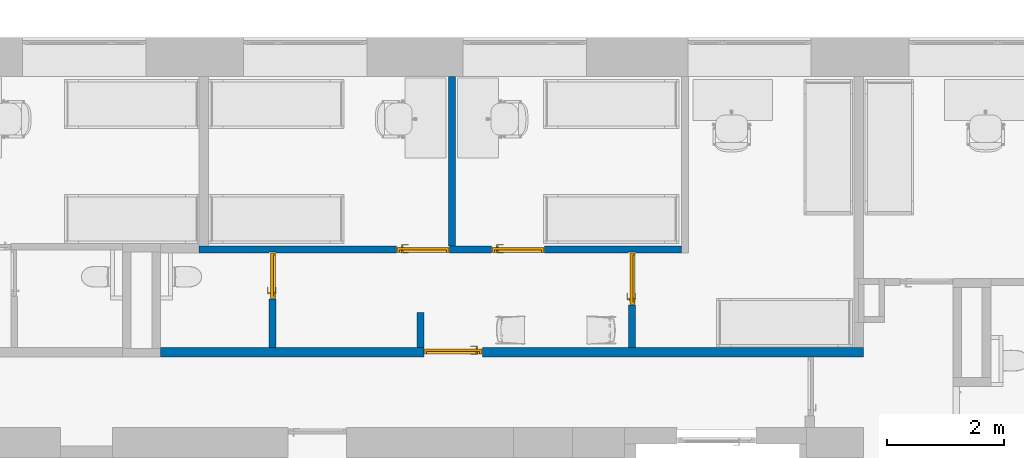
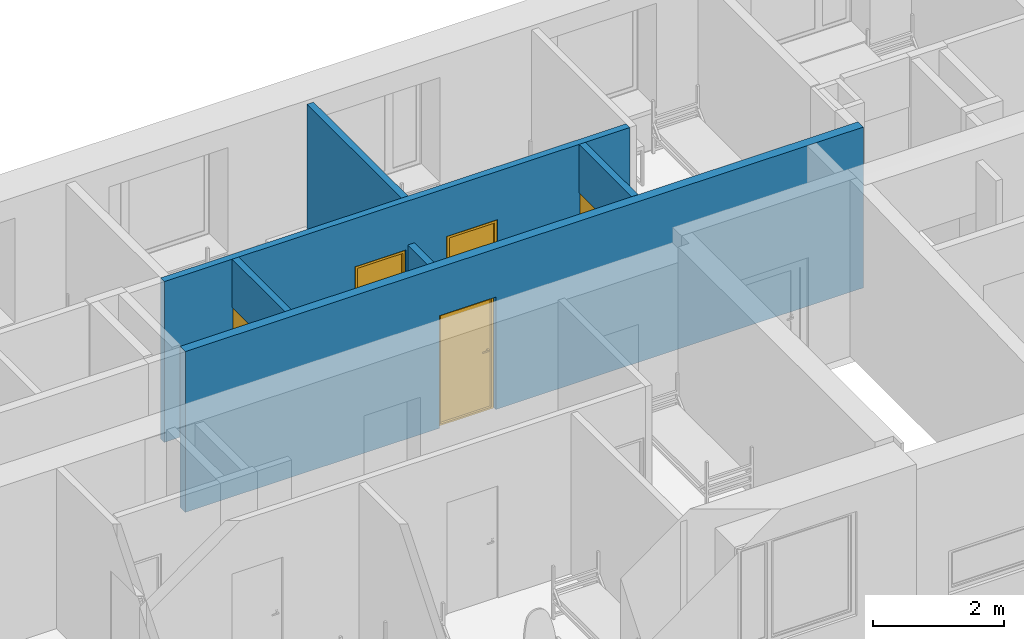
# One storey, part 10 of 46: 6 walls, 5 doors, 8 openings.
"""IFC2X3 building model written with IfcOpenShell, lengths in millimetres."""

import ifcopenshell
import ifcopenshell.guid

model = None  # the IFC model being written
_history = None  # IfcOwnerHistory: only IFC2X3 demands one
_inside = {}  # id of a spatial element -> (the spatial element, [elements in it])
_under = {}  # id of a project, library or spatial element -> (it, [spatial elements below it])
_declared = {}  # id of a project -> (the project, [libraries it declares])
_typed = {}  # id of a type object -> (the type object, [elements of that type])
_made_of = {}  # id of a material, layer set ... -> (it, [elements and type objects made of it])


def new_model(schema):
    """Start an empty IFC model of exactly this schema.

    Asked for "IFC4X3", IfcOpenShell would pick the latest addendum, in which some entities
    have other attributes; the version numbers below select the first issue.
    IFC2X3 requires an IfcOwnerHistory on every rooted entity: one is made here for all.
    """
    global model, _history
    if schema == "IFC4X3":
        model = ifcopenshell.file(schema_version=(4, 3, 0, 0))
    else:
        model = ifcopenshell.file(schema=schema)
    _inside.clear()
    _under.clear()
    _declared.clear()
    _typed.clear()
    _made_of.clear()
    _history = None
    if model.schema == "IFC2X3":
        org = make("IfcOrganization", Name="unknown")
        user = make(
            "IfcPersonAndOrganization",
            ThePerson=make("IfcPerson", FamilyName="unknown"),
            TheOrganization=org,
        )
        app = make(
            "IfcApplication",
            ApplicationDeveloper=org,
            Version="unknown",
            ApplicationFullName="unknown",
            ApplicationIdentifier="unknown",
        )
        _history = make(
            "IfcOwnerHistory",
            OwningUser=user,
            OwningApplication=app,
            ChangeAction="ADDED",
            CreationDate=0,
        )
    return model


def make(cls, **values):
    """One entity of the class cls with the attributes given. An attribute that is None is left unset."""
    return model.create_entity(
        cls, **{name: value for name, value in values.items() if value is not None}
    )


def entity(cls, *values):
    """Any entity or typed value of the class cls, its attributes in the order of the schema. None: left unset."""
    e = model.create_entity(cls)
    for i, value in enumerate(values):
        if value is not None:
            e[i] = value
    return e


def rooted(cls, **values):
    """An entity with a GlobalId (a new one), such as an element, a storey or a relation."""
    return make(cls, GlobalId=ifcopenshell.guid.new(), OwnerHistory=_history, **values)


def si_unit(unit_type, name, prefix=None):
    """IfcSIUnit, for example si_unit("LENGTHUNIT", "METRE", prefix="MILLI")."""
    return make("IfcSIUnit", UnitType=unit_type, Prefix=prefix, Name=name)


def converted_unit(unit_type, name, factor, base, dimensions=None, offset=None):
    """IfcConversionBasedUnit, such as the inch: factor (a typed value) times the base unit."""
    return make(
        "IfcConversionBasedUnit"
        if offset is None
        else "IfcConversionBasedUnitWithOffset",
        ConversionOffset=offset,
        Dimensions=None
        if dimensions is None
        else entity("IfcDimensionalExponents", *dimensions),
        UnitType=unit_type,
        Name=name,
        ConversionFactor=make(
            "IfcMeasureWithUnit", ValueComponent=factor, UnitComponent=base
        ),
    )


def derived_unit(unit_type, elements):
    """IfcDerivedUnit: a product of units, each with its exponent."""
    return make(
        "IfcDerivedUnit",
        Elements=[
            make("IfcDerivedUnitElement", Unit=unit, Exponent=power)
            for unit, power in elements
        ],
        UnitType=unit_type,
    )


def assignment(units):
    """IfcUnitAssignment: the units of a project."""
    return None if units is None else make("IfcUnitAssignment", Units=units)


def point(xyz):
    """IfcCartesianPoint."""
    return None if xyz is None else make("IfcCartesianPoint", Coordinates=xyz)


def direction(xyz):
    """IfcDirection."""
    return None if xyz is None else make("IfcDirection", DirectionRatios=xyz)


def frame(location, z_axis=None, x_axis=None):
    """IfcAxis2Placement3D, a coordinate frame: its origin and axes. An axis left out is left unset."""
    return make(
        "IfcAxis2Placement3D",
        Location=point(location),
        Axis=direction(z_axis),
        RefDirection=direction(x_axis),
    )


def frame_2d(location, x_axis=None):
    """IfcAxis2Placement2D, a coordinate frame in the plane: its origin and x axis."""
    return make(
        "IfcAxis2Placement2D", Location=point(location), RefDirection=direction(x_axis)
    )


def origin():
    """The frame at (0, 0, 0) with its axes left unset."""
    return frame((0.0, 0.0, 0.0))


def place(relative_to, where):
    """IfcLocalPlacement: puts the frame where relative to a parent placement (None: the world)."""
    return make(
        "IfcLocalPlacement", PlacementRelTo=relative_to, RelativePlacement=where
    )


def context(
    kind, dimensions, precision=None, world=None, true_north=None, identifier=None
):
    """IfcGeometricRepresentationContext, for example the 3D "Model" context."""
    return make(
        "IfcGeometricRepresentationContext",
        ContextIdentifier=identifier,
        ContextType=kind,
        CoordinateSpaceDimension=dimensions,
        Precision=precision,
        WorldCoordinateSystem=world,
        TrueNorth=true_north,
    )


def subcontext(parent, identifier, kind, view, scale=None):
    """IfcGeometricRepresentationSubContext, for example "Body" below "Model"."""
    return make(
        "IfcGeometricRepresentationSubContext",
        ContextIdentifier=identifier,
        ContextType=kind,
        ParentContext=parent,
        TargetScale=scale,
        TargetView=view,
    )


def project(units=None, contexts=None):
    """IfcProject with its units and contexts."""
    return rooted(
        "IfcProject",
        Name="project",
        RepresentationContexts=contexts,
        UnitsInContext=assignment(units),
    )


def spatial(cls, under=None, at=None, **own):
    """A site, building, storey or space (cls), placed at a placement, below another one or the project."""
    s = rooted(cls, ObjectPlacement=at, **own)
    if under is not None:
        _under.setdefault(under.id(), (under, []))[1].append(s)
    return s


def polyline(points):
    """IfcPolyline through the points."""
    return make("IfcPolyline", Points=[point(p) for p in points])


def profile(cls, at=None, kind="AREA", **sizes):
    """A parametric profile (cls). Its sizes go by their IFC names, for example OverallWidth=200.0."""
    return make(cls, ProfileType=kind, Position=at, **sizes)


def rectangle(**sizes):
    """IfcRectangleProfileDef."""
    return profile("IfcRectangleProfileDef", **sizes)


def extrude(swept, where, along, depth):
    """IfcExtrudedAreaSolid: the profile swept, set in the frame where, extruded along a direction by depth."""
    return make(
        "IfcExtrudedAreaSolid",
        SweptArea=swept,
        Position=where,
        ExtrudedDirection=direction(along),
        Depth=depth,
    )


def clip(a, b, op="DIFFERENCE"):
    """IfcBooleanClippingResult: the solid a cut by the half space b."""
    return make(
        "IfcBooleanClippingResult", Operator=op, FirstOperand=a, SecondOperand=b
    )


def bounded_halfspace(plane, agree, where, boundary):
    """IfcPolygonalBoundedHalfSpace: a half space limited to a polygon's prism."""
    return make(
        "IfcPolygonalBoundedHalfSpace",
        BaseSurface=make("IfcPlane", Position=plane),
        AgreementFlag=agree,
        Position=where,
        PolygonalBoundary=boundary,
    )


def faces_of(points, faces, orient=None, outer=None):
    """IfcFace entities. A face is a list of loops; a loop is a list of indices into points, from 0.

    orient and outer hold one flag for each loop. By default every Orientation is true, the
    first loop of a face is its IfcFaceOuterBound and the others are IfcFaceBound.
    """
    made = []
    for i, loops in enumerate(faces):
        bounds = []
        for j, loop in enumerate(loops):
            is_outer = j == 0 if outer is None else outer[i][j]
            bounds.append(
                make(
                    "IfcFaceOuterBound" if is_outer else "IfcFaceBound",
                    Bound=make("IfcPolyLoop", Polygon=[points[k] for k in loop]),
                    Orientation=True if orient is None else orient[i][j],
                )
            )
        made.append(make("IfcFace", Bounds=bounds))
    return made


def faceted_brep(points, faces, orient=None, outer=None, voids=None):
    """IfcFacetedBrep: a solid bounded by flat faces; with voids (closed shells), ...WithVoids."""
    shared = [point(p) for p in points]
    hull = make("IfcClosedShell", CfsFaces=faces_of(shared, faces, orient, outer))
    if voids is None:
        return make("IfcFacetedBrep", Outer=hull)
    return make(
        "IfcFacetedBrepWithVoids",
        Outer=hull,
        Voids=[
            make(cls, CfsFaces=faces_of(shared, fs, o, b)) for cls, fs, o, b in voids
        ],
    )


def shape(context_of_items, identifier, shape_type, items):
    """IfcShapeRepresentation: the items that make up one representation, for example the "Body"."""
    return make(
        "IfcShapeRepresentation",
        ContextOfItems=context_of_items,
        RepresentationIdentifier=identifier,
        RepresentationType=shape_type,
        Items=items,
    )


def source(mapping_origin, context_of_items, identifier, shape_type, items):
    """IfcRepresentationMap: a shape defined once, which mapped items show again and again."""
    return make(
        "IfcRepresentationMap",
        MappingOrigin=mapping_origin,
        MappedRepresentation=shape(context_of_items, identifier, shape_type, items),
    )


def transform(
    local_origin,
    x_axis=None,
    y_axis=None,
    z_axis=None,
    scale=None,
    scale2=None,
    scale3=None,
    uniform=True,
):
    """IfcCartesianTransformationOperator3D, or its non-uniform kind. x_axis, y_axis, z_axis: its Axis1, 2, 3."""
    if uniform:
        return make(
            "IfcCartesianTransformationOperator3D",
            Axis1=direction(x_axis),
            Axis2=direction(y_axis),
            LocalOrigin=point(local_origin),
            Scale=scale,
            Axis3=direction(z_axis),
        )
    return make(
        "IfcCartesianTransformationOperator3DnonUniform",
        Axis1=direction(x_axis),
        Axis2=direction(y_axis),
        LocalOrigin=point(local_origin),
        Scale=scale,
        Axis3=direction(z_axis),
        Scale2=scale2,
        Scale3=scale3,
    )


def mapped(mapping_source, mapping_target):
    """IfcMappedItem: shows the shape of a source again, moved by a transform."""
    return make(
        "IfcMappedItem", MappingSource=mapping_source, MappingTarget=mapping_target
    )


def material(Name=None, Category=None):
    """IfcMaterial."""
    return make("IfcMaterial", Name=Name, Category=Category)


def material_list(materials):
    """IfcMaterialList."""
    return make("IfcMaterialList", Materials=materials)


def layer(
    of_material, thickness, ventilated=None, Name=None, Category=None, Priority=None
):
    """IfcMaterialLayer: one layer of a wall or slab, of a material (None: an air gap)."""
    return make(
        "IfcMaterialLayer",
        Material=of_material,
        LayerThickness=thickness,
        IsVentilated=ventilated,
        Name=Name,
        Category=Category,
        Priority=Priority,
    )


def layer_set(layers, Name=None):
    """IfcMaterialLayerSet."""
    return make("IfcMaterialLayerSet", MaterialLayers=layers, LayerSetName=Name)


def layer_usage(for_layer_set, set_direction, sense, offset, extent=None):
    """IfcMaterialLayerSetUsage: how a layer set lies in its element."""
    return make(
        "IfcMaterialLayerSetUsage",
        ForLayerSet=for_layer_set,
        LayerSetDirection=set_direction,
        DirectionSense=sense,
        OffsetFromReferenceLine=offset,
        ReferenceExtent=extent,
    )


def made_of(thing, what):
    """Note that an element or type object is made of a material, layer set ...; save() writes the relation."""
    if what is not None:
        _made_of.setdefault(what.id(), (what, []))[1].append(thing)
    return thing


def type_object(cls, material=None, **own):
    """A type object (cls), such as IfcWallType, which elements share."""
    return made_of(rooted(cls, **own), material)


def type_shapes(of_type, sources):
    """Give a type object the sources (RepresentationMaps) that its elements show as mapped items."""
    of_type.RepresentationMaps = sources


def element(
    cls,
    number,
    at=None,
    inside=None,
    cuts=None,
    type_object=None,
    material=None,
    context=None,
    identifier="Body",
    shape_type=None,
    held_by="IfcProductDefinitionShape",
    body=None,
    shapes=None,
    **own,
):
    """One element of the class cls, such as IfcWall. Its Tag is "e" and its number.

    at: its placement. inside: the storey or other place that contains it. cuts: it is an
    opening in that element (IfcRelVoidsElement). A single representation is given by context,
    identifier, shape_type and body (its items); several are given by shapes. held_by: the class
    of the entity that holds the representations. save() writes the other relations.
    """
    e = rooted(cls, Tag="e%d" % number, ObjectPlacement=at, **own)
    if body is not None:
        shapes = [shape(context, identifier, shape_type, body)]
    if shapes is not None:
        e.Representation = make(held_by, Representations=shapes)
    if inside is not None:
        _inside.setdefault(inside.id(), (inside, []))[1].append(e)
    if cuts is not None:
        rooted(
            "IfcRelVoidsElement", RelatingBuildingElement=cuts, RelatedOpeningElement=e
        )
    if type_object is not None:
        _typed.setdefault(type_object.id(), (type_object, []))[1].append(e)
    return made_of(e, material)


def fill(opening, filler):
    """IfcRelFillsElement: the door or window that sits in an opening."""
    return rooted(
        "IfcRelFillsElement",
        RelatingOpeningElement=opening,
        RelatedBuildingElement=filler,
    )


def aggregate(whole, parts):
    """IfcRelAggregates: a whole, such as a stair, and the parts it consists of."""
    return rooted("IfcRelAggregates", RelatingObject=whole, RelatedObjects=parts)


def save(model, path):
    """Write the relations noted so far, then the file.

    IfcRelAggregates (storeys below a building ...), IfcRelContainedInSpatialStructure (elements
    in a storey), IfcRelDefinesByType, IfcRelAssociatesMaterial and IfcRelDeclares: one each for
    every whole, place, type object, material and project.
    """
    for whole, parts in _under.values():
        aggregate(whole, parts)
    for where, things in _inside.values():
        rooted(
            "IfcRelContainedInSpatialStructure",
            RelatedElements=things,
            RelatingStructure=where,
        )
    for kind, things in _typed.values():
        rooted("IfcRelDefinesByType", RelatedObjects=things, RelatingType=kind)
    for what, things in _made_of.values():
        rooted("IfcRelAssociatesMaterial", RelatedObjects=things, RelatingMaterial=what)
    for by, libraries in _declared.values():
        rooted("IfcRelDeclares", RelatingContext=by, RelatedDefinitions=libraries)
    model.write(path)


model = new_model("IFC2X3")

# Units and contexts
model_context = context("Model", 3, precision=0.01, world=origin(), true_north=direction((6.12303176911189e-17, 1.0)))
body_context = subcontext(model_context, "Body", "Model", "MODEL_VIEW")
ifc_project = project(units=[si_unit("LENGTHUNIT", "METRE", prefix="MILLI"), si_unit("AREAUNIT", "SQUARE_METRE"), si_unit("VOLUMEUNIT", "CUBIC_METRE"), converted_unit("PLANEANGLEUNIT", "DEGREE", entity("IfcRatioMeasure", 0.0174532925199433), si_unit("PLANEANGLEUNIT", "RADIAN"), dimensions=[0, 0, 0, 0, 0, 0, 0]), si_unit("MASSUNIT", "GRAM", prefix="KILO"), derived_unit("MASSDENSITYUNIT", [(si_unit("MASSUNIT", "GRAM", prefix="KILO"), 1), (si_unit("LENGTHUNIT", "METRE"), -3)]), si_unit("TIMEUNIT", "SECOND"), si_unit("FREQUENCYUNIT", "HERTZ"), si_unit("THERMODYNAMICTEMPERATUREUNIT", "DEGREE_CELSIUS"), derived_unit("THERMALTRANSMITTANCEUNIT", [(si_unit("MASSUNIT", "GRAM", prefix="KILO"), 1), (si_unit("THERMODYNAMICTEMPERATUREUNIT", "KELVIN"), -1), (si_unit("TIMEUNIT", "SECOND"), -3)]), derived_unit("VOLUMETRICFLOWRATEUNIT", [(si_unit("LENGTHUNIT", "METRE"), 3), (si_unit("TIMEUNIT", "SECOND"), -1)]), si_unit("ELECTRICCURRENTUNIT", "AMPERE"), si_unit("ELECTRICVOLTAGEUNIT", "VOLT"), si_unit("POWERUNIT", "WATT"), si_unit("FORCEUNIT", "NEWTON", prefix="KILO"), si_unit("ILLUMINANCEUNIT", "LUX"), si_unit("LUMINOUSFLUXUNIT", "LUMEN"), si_unit("LUMINOUSINTENSITYUNIT", "CANDELA"), derived_unit("USERDEFINED", [(si_unit("MASSUNIT", "GRAM", prefix="KILO"), -1), (si_unit("LENGTHUNIT", "METRE"), -2), (si_unit("TIMEUNIT", "SECOND"), 3), (si_unit("LUMINOUSFLUXUNIT", "LUMEN"), 1)]), derived_unit("LINEARVELOCITYUNIT", [(si_unit("LENGTHUNIT", "METRE"), 1), (si_unit("TIMEUNIT", "SECOND"), -1)]), si_unit("PRESSUREUNIT", "PASCAL"), derived_unit("USERDEFINED", [(si_unit("LENGTHUNIT", "METRE"), -2), (si_unit("MASSUNIT", "GRAM", prefix="KILO"), 1), (si_unit("TIMEUNIT", "SECOND"), -2)]), derived_unit("LINEARFORCEUNIT", [(si_unit("MASSUNIT", "GRAM", prefix="KILO"), 1), (si_unit("LENGTHUNIT", "METRE"), 1), (si_unit("TIMEUNIT", "SECOND"), -2), (si_unit("LENGTHUNIT", "METRE"), -1)]), derived_unit("PLANARFORCEUNIT", [(si_unit("MASSUNIT", "GRAM", prefix="KILO"), 1), (si_unit("LENGTHUNIT", "METRE"), 1), (si_unit("TIMEUNIT", "SECOND"), -2), (si_unit("LENGTHUNIT", "METRE"), -2)])], contexts=[model_context])

# Site, building, storey
site_placement = place(None, origin())
site = spatial("IfcSite", under=ifc_project, at=site_placement, Name="Default", CompositionType="ELEMENT")
building_placement = place(site_placement, origin())
building = spatial("IfcBuilding", under=site, at=building_placement, Name="SMA ARH", CompositionType="ELEMENT")
storey_placement = place(building_placement, frame((0.0, 0.0, 9910.0)))
storey = spatial("IfcBuildingStorey", under=building, at=storey_placement, Name="4 Korrus", CompositionType="ELEMENT", Elevation=9909.9999999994)

# Wall, openings, door
ifc_material_1 = material(Name="EST. Ehitusplaat. Kipsplaat")
ifc_layer_1 = layer(ifc_material_1, 12.5)
ifc_layer_2 = layer(ifc_material_1, 12.5)
ifc_material_2 = material(Name="EST. Soojustus. Mineraalvill. Default")
ifc_layer_3 = layer(ifc_material_2, 50.0)
ifc_layer_4 = layer(ifc_material_1, 12.5)
ifc_layer_5 = layer(ifc_material_2, 50.0)
ifc_layer_6 = layer(ifc_material_1, 12.5)
ifc_layer_7 = layer(ifc_material_1, 12.5)
ifc_layer_set_1 = layer_set([ifc_layer_1, ifc_layer_2, ifc_layer_3, ifc_layer_4, ifc_layer_5, ifc_layer_6, ifc_layer_7], Name="Basic Wall:SS-04_Kips, 50+50 mm metallkarkass 2")
ifc_layer_usage_1 = layer_usage(ifc_layer_set_1, "AXIS2", "NEGATIVE", 81.25)
wall_type_1 = type_object("IfcWallType", Name="Basic Wall:SS-04_Kips, 50+50 mm metallkarkass 2", PredefinedType="STANDARD", material=ifc_layer_set_1)
wall_1_placement = place(storey_placement, frame((22737.2884818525, 7801.25000000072, 0.0)))
wall_1 = element("IfcWallStandardCase", 1, at=wall_1_placement, inside=storey, type_object=wall_type_1, material=ifc_layer_usage_1, Name="Basic Wall:SS-04_Kips, 50+50 mm metallkarkass 2", ObjectType="Basic Wall:SS-04_Kips, 50+50 mm metallkarkass 2", context=body_context, shape_type="Clipping", body=[
    clip(extrude(rectangle(XDim=11969.4615181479, YDim=162.5, at=frame_2d((5984.73075907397, 1.4210854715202e-14), x_axis=(-1.0, 0.0))), origin(), (0.0, 0.0, 1.0), 3001.0500000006), bounded_halfspace(frame((0.0, -81.2499999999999, 3001.0500000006), z_axis=(0.0, 0.0, -1.0), x_axis=(0.0, 1.0, 0.0)), True, frame((0.0, -81.2499999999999, 3001.0500000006)), polyline([(0.0, 0.0), (10973.9615181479, 0.0), (11136.4615181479, 0.0), (11969.4615181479, 0.0), (11969.4615181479, 162.5), (11806.9615181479, 162.5), (8087.29506046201, 162.5), (7971.29506046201, 162.499999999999), (4482.0, 162.5), (4366.0, 162.499999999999), (1966.0, 162.5), (1850.0, 162.5), (0.0, 162.5), (0.0, 150.000009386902), (0.0, 0.0)]))),
])
opening_1_placement = place(wall_1_placement, origin())
element("IfcOpeningElement", 2, at=opening_1_placement, cuts=wall_1, Name="Basic Wall:SS-04_Kips, 50+50 mm metallkarkass 2", ObjectType="Opening", context=body_context, shape_type="SweptSolid", body=[
    extrude(rectangle(XDim=2099.99999999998, YDim=162.500000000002, at=frame_2d((-2.16715534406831e-12, -1.02318153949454e-12), x_axis=(0.0, 1.0))), frame((11055.2115181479, -1081.25, 1050.0), z_axis=(0.0, 1.0, 0.0), x_axis=(-1.0, 0.0, 0.0)), (0.0, 0.0, 1.0), 999.999999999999),
])
opening_2_placement = place(wall_1_placement, frame((4482.0, -81.2500000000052, 0.0)))
opening_2 = element("IfcOpeningElement", 3, at=opening_2_placement, cuts=wall_1, Name="SMA_D01, 1-poolne:SU-P-04 - 1000x2100 EI-30:1", ObjectType="Opening", context=body_context, shape_type="SweptSolid", body=[
    extrude(rectangle(XDim=2099.99999999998, YDim=1000.0, at=frame_2d((1049.99999999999, 500.0), x_axis=(1.0, 0.0))), frame((0.0, 0.0, 0.0), z_axis=(0.0, 1.0, 0.0), x_axis=(0.0, 0.0, 1.0)), (0.0, 0.0, 1.0), 162.5),
])
ifc_material_3 = material(Name="EST. Metall. Alumiinium. Värvitud. RAL7023 (Concrete grey)")
ifc_material_4 = material(Name="<Unnamed>")
ifc_material_5 = material(Name="EST. Klaas. 3x. Default")
ifc_material_list_1 = material_list([ifc_material_3, ifc_material_3, ifc_material_3, ifc_material_4, ifc_material_5, ifc_material_4, ifc_material_4])
door_style_1 = type_object("IfcDoorStyle", Name="SMA_D01, 1-poolne:SU-P-04 - 1000x2100 EI-30", ConstructionType="NOTDEFINED", OperationType="SINGLE_SWING_LEFT", ParameterTakesPrecedence=False, Sizeable=False, material=ifc_material_list_1)
shared_shape_1 = source(origin(), body_context, "Body", "Brep", [
    faceted_brep([(890.0, 52.5000000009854, 1112.5), (795.0, 52.5000000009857, 1112.5), (795.0, 47.5000000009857, 1112.5), (915.0, 47.5000000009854, 1112.5), (915.0, 90.5000000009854, 1112.5), (890.0, 90.5000000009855, 1112.5), (890.0, 52.5000000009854, 1087.5), (890.0, 90.5000000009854, 1087.5), (915.0, 90.5000000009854, 1087.5), (915.0, 47.5000000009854, 1087.5), (795.0, 47.5000000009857, 1087.5), (795.0, 52.5000000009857, 1087.5)], [[[0, 1, 2, 3, 4, 5]], [[6, 7, 8, 9, 10, 11]], [[5, 7, 6, 0]], [[4, 8, 7, 5]], [[3, 9, 8, 4]], [[2, 10, 9, 3]], [[1, 11, 10, 2]], [[0, 6, 11, 1]]]),
    faceted_brep([(877.500000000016, 90.5000000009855, 1137.5), (927.500000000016, 90.5000000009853, 1137.5), (927.500000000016, 92.5000000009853, 1137.5), (877.500000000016, 92.5000000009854, 1137.5), (877.500000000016, 90.5000000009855, 1017.5), (877.500000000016, 92.5000000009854, 1017.5), (927.500000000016, 92.5000000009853, 1017.5), (927.500000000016, 90.5000000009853, 1017.5)], [[[0, 1, 2, 3]], [[4, 5, 6, 7]], [[3, 5, 4, 0]], [[2, 6, 5, 3]], [[1, 7, 6, 2]], [[0, 4, 7, 1]]]),
    faceted_brep([(890.0, 182.500000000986, 1112.5), (890.0, 144.500000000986, 1112.5), (915.0, 144.500000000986, 1112.5), (915.0, 187.500000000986, 1112.5), (795.0, 187.500000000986, 1112.5), (795.0, 182.500000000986, 1112.5), (890.0, 182.500000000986, 1087.5), (795.0, 182.500000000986, 1087.5), (795.0, 187.500000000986, 1087.5), (915.0, 187.500000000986, 1087.5), (915.0, 144.500000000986, 1087.5), (890.0, 144.500000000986, 1087.5)], [[[0, 1, 2, 3, 4, 5]], [[6, 7, 8, 9, 10, 11]], [[1, 0, 6, 11]], [[2, 1, 11, 10]], [[3, 2, 10, 9]], [[4, 3, 9, 8]], [[5, 4, 8, 7]], [[0, 5, 7, 6]]]),
    faceted_brep([(877.500000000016, 144.500000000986, 1137.5), (877.500000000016, 142.500000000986, 1137.5), (927.500000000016, 142.500000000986, 1137.5), (927.500000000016, 144.500000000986, 1137.5), (877.500000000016, 144.500000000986, 1017.5), (927.500000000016, 144.500000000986, 1017.5), (927.500000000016, 142.500000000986, 1017.5), (877.500000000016, 142.500000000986, 1017.5)], [[[0, 1, 2, 3]], [[4, 5, 6, 7]], [[1, 0, 4, 7]], [[2, 1, 7, 6]], [[3, 2, 6, 5]], [[0, 3, 5, 4]]]),
    faceted_brep([(50.0, 52.5000000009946, 30.0), (50.0, 92.5000000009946, 30.0), (50.0, 92.5000000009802, 20.0), (50.0, 92.5000000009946, 0.0), (50.0, 52.5000000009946, 0.0), (950.0, 52.5000000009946, 30.0), (950.0, 52.5000000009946, 0.0), (950.0, 92.5000000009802, 0.0), (950.0, 92.5000000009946, 20.0), (950.0, 92.5000000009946, 30.0), (35.0, 92.5000000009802, 0.0), (35.0, 142.500000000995, 0.0), (965.0, 142.500000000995, 0.0), (965.0, 92.5000000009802, 0.0), (35.0, 142.500000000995, 20.0), (35.0, 92.5000000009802, 20.0), (965.0, 142.500000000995, 20.0), (965.0, 92.5000000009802, 20.0)], [[[0, 1, 2, 3, 4]], [[5, 6, 7, 8, 9]], [[4, 6, 5, 0]], [[3, 10, 11, 12, 13, 7, 6, 4]], [[9, 8, 2, 1]], [[0, 5, 9, 1]], [[14, 11, 10, 15]], [[16, 17, 13, 12]], [[15, 2, 8, 17, 16, 14]], [[10, 3, 2, 15]], [[14, 16, 12, 11]], [[17, 8, 7, 13]]]),
    faceted_brep([(10.0, 52.5000000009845, 0.0), (10.0, 142.500000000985, 0.0), (35.0, 142.500000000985, 0.0), (35.0, 92.5000000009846, 0.0), (50.0, 92.5000000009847, 0.0), (50.0, 52.5000000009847, 0.0), (50.0, 52.5000000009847, 2050.0), (950.0, 52.5000000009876, 2050.0), (950.0, 52.5000000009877, 0.0), (990.0, 52.5000000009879, 0.0), (990.0, 52.5000000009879, 2090.0), (10.0, 52.5000000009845, 2090.0), (50.0, 92.5000000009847, 2050.0), (35.0, 92.5000000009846, 2065.0), (965.0, 92.5000000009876, 2065.0), (965.0, 92.5000000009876, 0.0), (950.0, 92.5000000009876, 0.0), (950.0, 92.5000000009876, 2050.0), (35.0, 142.500000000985, 2065.0), (10.0, 142.500000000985, 2090.0), (990.0, 142.500000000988, 2090.0), (990.0, 142.500000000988, 0.0), (965.0, 142.500000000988, 0.0), (965.0, 142.500000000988, 2065.0)], [[[0, 1, 2, 3, 4, 5]], [[5, 6, 7, 8, 9, 10, 11, 0]], [[4, 12, 6, 5]], [[3, 13, 14, 15, 16, 17, 12, 4]], [[2, 18, 13, 3]], [[1, 19, 20, 21, 22, 23, 18, 2]], [[0, 11, 19, 1]], [[9, 21, 20, 10]], [[8, 16, 15, 22, 21, 9]], [[7, 17, 16, 8]], [[14, 23, 22, 15]], [[6, 12, 17, 7]], [[13, 18, 23, 14]], [[10, 20, 19, 11]]]),
    faceted_brep([(965.0, 92.5000000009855, 2065.0), (35.0, 92.5000000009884, 2065.0), (35.0, 92.5000000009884, 20.0), (965.0, 92.5000000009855, 20.0), (965.0, 142.500000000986, 2065.0), (965.0, 142.500000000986, 20.0), (35.0, 142.500000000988, 20.0), (35.0, 142.500000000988, 2065.0)], [[[0, 1, 2, 3]], [[4, 5, 6, 7]], [[3, 5, 4, 0]], [[2, 6, 5, 3]], [[1, 7, 6, 2]], [[0, 4, 7, 1]]]),
])
type_shapes(door_style_1, [shared_shape_1])
door_1_placement = place(opening_2_placement, origin())
door_1 = element("IfcDoor", 4, at=door_1_placement, inside=storey, type_object=door_style_1, material=ifc_material_3, Name="SMA_D01, 1-poolne:SU-P-04 - 1000x2100 EI-30", ObjectType="SMA_D01, 1-poolne:SU-P-04 - 1000x2100 EI-30", OverallHeight=2099.99999999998, OverallWidth=999.999999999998, context=body_context, shape_type="MappedRepresentation", body=[
    mapped(shared_shape_1, transform((0.0, 0.0, 0.0), scale=1.0)),
])
fill(opening_2, door_1)

# Wall
ifc_layer_8 = layer(ifc_material_1, 12.5)
ifc_layer_9 = layer(ifc_material_1, 12.5)
ifc_layer_10 = layer(ifc_material_2, 66.0)
ifc_layer_11 = layer(ifc_material_1, 12.5)
ifc_layer_12 = layer(ifc_material_1, 12.5)
ifc_layer_set_2 = layer_set([ifc_layer_8, ifc_layer_9, ifc_layer_10, ifc_layer_11, ifc_layer_12], Name="Basic Wall:SS-05_Kips, 66mm metallkarkass")
ifc_layer_usage_2 = layer_usage(ifc_layer_set_2, "AXIS2", "NEGATIVE", 58.0)
wall_type_2 = type_object("IfcWallType", Name="Basic Wall:SS-05_Kips, 66mm metallkarkass", PredefinedType="STANDARD", material=ifc_layer_set_2)
wall_2_placement = place(storey_placement, frame((27701.5000000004, 12500.0, 0.0), z_axis=(0.0, 0.0, 1.0), x_axis=(0.0, -1.0, 0.0)))
element("IfcWallStandardCase", 5, at=wall_2_placement, inside=storey, type_object=wall_type_2, material=ifc_layer_usage_2, Name="Basic Wall:SS-05_Kips, 66mm metallkarkass", ObjectType="Basic Wall:SS-05_Kips, 66mm metallkarkass", context=body_context, shape_type="SweptSolid", body=[
    extrude(rectangle(XDim=2889.49999999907, YDim=116.0, at=frame_2d((1444.74999999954, -2.06057393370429e-13), x_axis=(-1.0, 0.0))), origin(), (0.0, 0.0, 1.0), 3001.0500000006),
])

# Wall, openings, doors
ifc_layer_usage_3 = layer_usage(ifc_layer_set_2, "AXIS2", "POSITIVE", -58.0)
wall_3_placement = place(storey_placement, frame((31609.5000000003, 9552.5000000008, 0.0), z_axis=(0.0, 0.0, 1.0), x_axis=(-1.0, 0.0, 0.0)))
wall_3 = element("IfcWallStandardCase", 6, at=wall_3_placement, inside=storey, type_object=wall_type_2, material=ifc_layer_usage_3, Name="Basic Wall:SS-05_Kips, 66mm metallkarkass", ObjectType="Basic Wall:SS-05_Kips, 66mm metallkarkass", context=body_context, shape_type="Clipping", body=[
    clip(extrude(rectangle(XDim=8218.24999999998, YDim=116.0, at=frame_2d((4109.12499999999, -1.4210854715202e-13), x_axis=(-1.0, 0.0))), origin(), (0.0, 0.0, 1.0), 3001.0500000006), bounded_halfspace(frame((0.0, -58.0, 3001.0500000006), z_axis=(0.0, 0.0, -1.0), x_axis=(0.0, -1.0, 0.0)), True, frame((0.0, -58.0, 3001.0500000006)), polyline([(0.0, 0.0), (3850.0, 0.0), (3966.0, 0.0), (8055.74999999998, 0.0), (8218.24999999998, 0.0), (8218.24999999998, 116.0), (7022.21151814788, 116.0), (6906.21151814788, 116.0), (900.916457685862, 116.0), (784.916457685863, 116.0), (0.0, 116.0), (0.0, 0.0)]))),
])
opening_3_placement = place(wall_3_placement, origin())
element("IfcOpeningElement", 7, at=opening_3_placement, cuts=wall_3, Name="Basic Wall:SS-05_Kips, 66mm metallkarkass", ObjectType="Opening", context=body_context, shape_type="SweptSolid", body=[
    extrude(rectangle(XDim=2099.99999999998, YDim=116.0, at=frame_2d((0.0, 1.02318153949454e-12), x_axis=(0.0, 1.0))), frame((6964.21151814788, 45.5000000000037, 1050.0), z_axis=(0.0, 1.0, 0.0), x_axis=(1.0, 0.0, 0.0)), (0.0, 0.0, 1.0), 800.0),
])
opening_4_placement = place(wall_3_placement, origin())
element("IfcOpeningElement", 8, at=opening_4_placement, cuts=wall_3, Name="Basic Wall:SS-05_Kips, 66mm metallkarkass", ObjectType="Opening", context=body_context, shape_type="SweptSolid", body=[
    extrude(rectangle(XDim=2099.99999999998, YDim=116.0, at=frame_2d((-4.33075797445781e-12, 1.02318153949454e-12), x_axis=(0.0, 1.0))), frame((842.916457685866, 45.500000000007, 1050.0), z_axis=(0.0, 1.0, 0.0), x_axis=(1.0, 0.0, 0.0)), (0.0, 0.0, 1.0), 900.0),
])
opening_5_placement = place(wall_3_placement, frame((4853.49999999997, 58.0, 0.0)))
opening_5 = element("IfcOpeningElement", 9, at=opening_5_placement, cuts=wall_3, Name="SMA_D01, 1-poolne:SU-P-05 - 900x2100 TUBA:1", ObjectType="Opening", context=body_context, shape_type="SweptSolid", body=[
    extrude(rectangle(XDim=2099.99999999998, YDim=900.0, at=frame_2d((1049.99999999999, 450.0), x_axis=(1.0, 0.0))), frame((0.0, 0.0, 0.0), z_axis=(0.0, -1.0, 0.0), x_axis=(0.0, 0.0, 1.0)), (0.0, 0.0, 1.0), 116.0),
])
opening_6_placement = place(wall_3_placement, frame((3235.0, 58.0, 0.0)))
opening_6 = element("IfcOpeningElement", 10, at=opening_6_placement, cuts=wall_3, Name="SMA_D01, 1-poolne:SU-P-05 - 900x2100 TUBA:1", ObjectType="Opening", context=body_context, shape_type="SweptSolid", body=[
    extrude(rectangle(XDim=2099.99999999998, YDim=900.0, at=frame_2d((1049.99999999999, 450.0), x_axis=(1.0, 0.0))), frame((0.0, 0.0, 0.0), z_axis=(0.0, -1.0, 0.0), x_axis=(0.0, 0.0, 1.0)), (0.0, 0.0, 1.0), 116.0),
])
ifc_material_list_2 = material_list([ifc_material_4, ifc_material_5, ifc_material_4, ifc_material_3, ifc_material_3, ifc_material_3, ifc_material_4])
door_style_2 = type_object("IfcDoorStyle", Name="SMA_D01, 1-poolne:SU-P-05 - 900x2100 TUBA", ConstructionType="NOTDEFINED", OperationType="SINGLE_SWING_RIGHT", ParameterTakesPrecedence=False, Sizeable=False, material=ifc_material_list_2)
shared_shape_2 = source(origin(), body_context, "Body", "Brep", [
    faceted_brep([(110.0, 6.0, 1112.5), (110.0, 44.0, 1112.5), (85.0, 44.0, 1112.5), (85.0, 1.0, 1112.5), (205.0, 1.0, 1112.5), (205.0, 6.0, 1112.5), (110.0, 6.0, 1087.5), (205.0, 6.0, 1087.5), (205.0, 1.0, 1087.5), (85.0, 1.0, 1087.5), (85.0, 44.0, 1087.5), (110.0, 44.0, 1087.5)], [[[0, 1, 2, 3, 4, 5]], [[6, 7, 8, 9, 10, 11]], [[1, 0, 6, 11]], [[2, 1, 11, 10]], [[3, 2, 10, 9]], [[4, 3, 9, 8]], [[5, 4, 8, 7]], [[0, 5, 7, 6]]]),
    faceted_brep([(122.5, 44.0, 1137.5), (122.5, 46.0, 1137.5), (72.5000000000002, 46.0, 1137.5), (72.5000000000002, 44.0, 1137.5), (122.5, 44.0, 1017.5), (72.5000000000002, 44.0, 1017.5), (72.5000000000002, 46.0, 1017.5), (122.5, 46.0, 1017.5)], [[[0, 1, 2, 3]], [[4, 5, 6, 7]], [[1, 0, 4, 7]], [[2, 1, 7, 6]], [[3, 2, 6, 5]], [[0, 3, 5, 4]]]),
    faceted_brep([(110.0, 136.0, 1112.5), (205.0, 136.0, 1112.5), (205.0, 141.0, 1112.5), (85.0, 141.0, 1112.5), (85.0, 98.0, 1112.5), (110.0, 98.0, 1112.5), (110.0, 136.0, 1087.5), (110.0, 98.0, 1087.5), (85.0, 98.0, 1087.5), (85.0, 141.0, 1087.5), (205.0, 141.0, 1087.5), (205.0, 136.0, 1087.5)], [[[0, 1, 2, 3, 4, 5]], [[6, 7, 8, 9, 10, 11]], [[5, 7, 6, 0]], [[4, 8, 7, 5]], [[3, 9, 8, 4]], [[2, 10, 9, 3]], [[1, 11, 10, 2]], [[0, 6, 11, 1]]]),
    faceted_brep([(122.5, 98.0, 1137.5), (72.5000000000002, 98.0, 1137.5), (72.5000000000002, 96.0, 1137.5), (122.5, 96.0, 1137.5), (122.5, 98.0, 1017.5), (122.5, 96.0, 1017.5), (72.5000000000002, 96.0, 1017.5), (72.5000000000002, 98.0, 1017.5)], [[[0, 1, 2, 3]], [[4, 5, 6, 7]], [[3, 5, 4, 0]], [[2, 6, 5, 3]], [[1, 7, 6, 2]], [[0, 4, 7, 1]]]),
    faceted_brep([(850.0, 6.0, 30.0), (850.0, 6.0, 0.0), (850.0, 46.0, 0.0), (850.0, 46.0, 20.0), (850.0, 46.0, 30.0), (50.0, 6.0, 30.0), (50.0, 46.0, 30.0), (50.0, 46.0, 20.0), (50.0, 46.0, 0.0), (50.0, 6.0, 0.0), (35.0, 46.0, 0.0), (35.0, 96.0, 0.0), (865.0, 96.0, 0.0), (865.0, 46.0, 0.0), (865.0, 96.0, 20.0), (865.0, 46.0, 20.0), (35.0, 96.0, 20.0), (35.0, 46.0, 20.0)], [[[0, 1, 2, 3, 4]], [[5, 6, 7, 8, 9]], [[1, 0, 5, 9]], [[2, 1, 9, 8, 10, 11, 12, 13]], [[6, 4, 3, 7]], [[0, 4, 6, 5]], [[14, 15, 13, 12]], [[16, 11, 10, 17]], [[15, 14, 16, 17, 7, 3]], [[13, 15, 3, 2]], [[14, 12, 11, 16]], [[17, 10, 8, 7]]]),
    faceted_brep([(890.0, 6.0, 0.0), (850.0, 6.0, 0.0), (850.0, 46.0, 0.0), (865.0, 46.0, 0.0), (865.0, 96.0, 0.0), (890.0, 96.0, 0.0), (890.0, 6.0, 2090.0), (10.0, 6.0, 2090.0), (10.0, 6.0, 0.0), (50.0, 6.0, 0.0), (50.0, 6.0, 2050.0), (850.0, 6.0, 2050.0), (850.0, 46.0, 2050.0), (50.0, 46.0, 2050.0), (50.0, 46.0, 0.0), (35.0, 46.0, 0.0), (35.0, 46.0, 2065.0), (865.0, 46.0, 2065.0), (865.0, 96.0, 2065.0), (35.0, 96.0, 2065.0), (35.0, 96.0, 0.0), (10.0, 96.0, 0.0), (10.0, 96.0, 2090.0), (890.0, 96.0, 2090.0)], [[[0, 1, 2, 3, 4, 5]], [[1, 0, 6, 7, 8, 9, 10, 11]], [[2, 1, 11, 12]], [[3, 2, 12, 13, 14, 15, 16, 17]], [[4, 3, 17, 18]], [[5, 4, 18, 19, 20, 21, 22, 23]], [[0, 5, 23, 6]], [[8, 7, 22, 21]], [[9, 8, 21, 20, 15, 14]], [[10, 9, 14, 13]], [[16, 15, 20, 19]], [[11, 10, 13, 12]], [[17, 16, 19, 18]], [[7, 6, 23, 22]]]),
    faceted_brep([(35.0, 46.0, 2065.0), (35.0, 46.0, 20.0), (865.0, 46.0, 20.0), (865.0, 46.0, 2065.0), (35.0, 96.0, 2065.0), (865.0, 96.0, 2065.0), (865.0, 96.0, 20.0), (35.0, 96.0, 20.0)], [[[0, 1, 2, 3]], [[4, 5, 6, 7]], [[1, 0, 4, 7]], [[2, 1, 7, 6]], [[3, 2, 6, 5]], [[0, 3, 5, 4]]]),
])
type_shapes(door_style_2, [shared_shape_2])
door_2_placement = place(opening_5_placement, frame((0.0, 0.0, 0.0), z_axis=(0.0, 0.0, 1.0), x_axis=(-1.0, 0.0, 0.0)))
door_2 = element("IfcDoor", 11, at=door_2_placement, inside=storey, type_object=door_style_2, material=ifc_material_3, Name="SMA_D01, 1-poolne:SU-P-05 - 900x2100 TUBA", ObjectType="SMA_D01, 1-poolne:SU-P-05 - 900x2100 TUBA", OverallHeight=2099.99999999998, OverallWidth=900.000000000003, context=body_context, shape_type="MappedRepresentation", body=[
    mapped(shared_shape_2, transform((0.0, 0.0, 0.0), scale=1.0)),
])
fill(opening_5, door_2)
door_3_placement = place(opening_6_placement, frame((0.0, 0.0, 0.0), z_axis=(0.0, 0.0, 1.0), x_axis=(-1.0, 0.0, 0.0)))
door_3 = element("IfcDoor", 12, at=door_3_placement, inside=storey, type_object=door_style_2, material=ifc_material_3, Name="SMA_D01, 1-poolne:SU-P-05 - 900x2100 TUBA", ObjectType="SMA_D01, 1-poolne:SU-P-05 - 900x2100 TUBA", OverallHeight=2099.99999999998, OverallWidth=900.000000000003, context=body_context, shape_type="MappedRepresentation", body=[
    mapped(shared_shape_2, transform((0.0, 0.0, 0.0), scale=1.0)),
])
fill(opening_6, door_3)

# Wall, opening, door
ifc_layer_usage_4 = layer_usage(ifc_layer_set_2, "AXIS2", "NEGATIVE", 58.0)
wall_4_placement = place(storey_placement, frame((30766.5835423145, 9494.50000000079, 0.0), z_axis=(0.0, 0.0, 1.0), x_axis=(0.0, -1.0, 0.0)))
wall_4 = element("IfcWallStandardCase", 13, at=wall_4_placement, inside=storey, type_object=wall_type_2, material=ifc_layer_usage_4, Name="Basic Wall:SS-05_Kips, 66mm metallkarkass", ObjectType="Basic Wall:SS-05_Kips, 66mm metallkarkass", context=body_context, shape_type="Clipping", body=[
    clip(extrude(rectangle(XDim=1612.00000000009, YDim=116.0, at=frame_2d((806.000000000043, 1.77635683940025e-14), x_axis=(-1.0, 0.0))), origin(), (0.0, 0.0, 1.0), 3001.0500000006), bounded_halfspace(frame((0.0, -58.0, 3001.0500000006), z_axis=(0.0, 0.0, -1.0), x_axis=(-1.0, 0.0, 0.0)), True, frame((0.0, -58.0, 3001.0500000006)), polyline([(0.0, 0.0), (1612.0, 0.0), (1612.0, 116.0), (0.0, 116.0), (0.0, 0.0)]))),
])
opening_7_placement = place(wall_4_placement, frame((887.500000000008, 58.0, 0.0)))
opening_7 = element("IfcOpeningElement", 14, at=opening_7_placement, cuts=wall_4, Name="SMA_D01, 1-poolne:SU-P-05 - 900x2100 TUBA:1", ObjectType="Opening", context=body_context, shape_type="SweptSolid", body=[
    extrude(rectangle(XDim=2099.99999999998, YDim=900.0, at=frame_2d((1049.99999999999, 450.0), x_axis=(1.0, 0.0))), frame((0.0, 0.0, 0.0), z_axis=(0.0, -1.0, 0.0), x_axis=(0.0, 0.0, 1.0)), (0.0, 0.0, 1.0), 116.0),
])
door_4_placement = place(opening_7_placement, frame((0.0, 0.0, 0.0), z_axis=(0.0, 0.0, 1.0), x_axis=(-1.0, 0.0, 0.0)))
door_4 = element("IfcDoor", 15, at=door_4_placement, inside=storey, type_object=door_style_2, material=ifc_material_3, Name="SMA_D01, 1-poolne:SU-P-05 - 900x2100 TUBA", ObjectType="SMA_D01, 1-poolne:SU-P-05 - 900x2100 TUBA", OverallHeight=2099.99999999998, OverallWidth=900.0, context=body_context, shape_type="MappedRepresentation", body=[
    mapped(shared_shape_2, transform((0.0, 0.0, 0.0), scale=1.0)),
])
fill(opening_7, door_4)

ifc_layer_13 = layer(ifc_material_1, 12.5)
ifc_layer_14 = layer(ifc_material_1, 12.5)
ifc_material_6 = material(Name="EST. Õhkvahe. Roov. Kipsplaadi alusroov. Vertikaalne")
ifc_layer_15 = layer(ifc_material_6, 66.0)
ifc_layer_16 = layer(ifc_material_1, 12.5)
ifc_layer_17 = layer(ifc_material_1, 12.5)
ifc_layer_set_3 = layer_set([ifc_layer_13, ifc_layer_14, ifc_layer_15, ifc_layer_16, ifc_layer_17], Name="Basic Wall:SS-03_Kips, 66mm metallkarkass")
ifc_layer_usage_5 = layer_usage(ifc_layer_set_3, "AXIS2", "POSITIVE", -58.0)
wall_type_3 = type_object("IfcWallType", Name="Basic Wall:SS-03_Kips, 66mm metallkarkass", PredefinedType="STANDARD", material=ifc_layer_set_3)
wall_5_placement = place(storey_placement, frame((24645.2884818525, 7882.50000000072, 0.0), z_axis=(0.0, 0.0, 1.0), x_axis=(0.0, 1.0, 0.0)))
wall_5 = element("IfcWallStandardCase", 16, at=wall_5_placement, inside=storey, type_object=wall_type_3, material=ifc_layer_usage_5, Name="Basic Wall:SS-03_Kips, 66mm metallkarkass", ObjectType="Basic Wall:SS-03_Kips, 66mm metallkarkass", context=body_context, shape_type="Clipping", body=[
    clip(extrude(rectangle(XDim=1612.00000000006, YDim=116.0, at=frame_2d((806.000000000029, -1.77635683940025e-14), x_axis=(-1.0, 0.0))), origin(), (0.0, 0.0, 1.0), 3001.0500000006), bounded_halfspace(frame((0.0, -58.0, 3001.0500000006), z_axis=(0.0, 0.0, -1.0), x_axis=(1.0, 0.0, 0.0)), True, frame((0.0, -58.0, 3001.0500000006)), polyline([(0.0, 0.0), (1612.0, 0.0), (1612.0, 116.0), (0.0, 116.0), (0.0, 0.0)]))),
])
opening_8_placement = place(wall_5_placement, frame((824.500000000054, -58.0, 0.0)))
opening_8 = element("IfcOpeningElement", 17, at=opening_8_placement, cuts=wall_5, Name="SMA_D01, 1-poolne:SU-P-06 - 800x2100 DUŠŠ:1", ObjectType="Opening", context=body_context, shape_type="SweptSolid", body=[
    extrude(rectangle(XDim=2099.99999999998, YDim=800.0, at=frame_2d((1049.99999999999, 400.0), x_axis=(1.0, 0.0))), frame((0.0, 0.0, 0.0), z_axis=(0.0, 1.0, 0.0), x_axis=(0.0, 0.0, 1.0)), (0.0, 0.0, 1.0), 116.0),
])
ifc_material_list_3 = material_list([ifc_material_3, ifc_material_3, ifc_material_4, ifc_material_5, ifc_material_4, ifc_material_3, ifc_material_4])
door_style_3 = type_object("IfcDoorStyle", Name="SMA_D01, 1-poolne:SU-P-06 - 800x2100 DUŠŠ", ConstructionType="NOTDEFINED", OperationType="SINGLE_SWING_RIGHT", ParameterTakesPrecedence=False, Sizeable=False, material=ifc_material_list_3)
shared_shape_3 = source(origin(), body_context, "Body", "Brep", [
    faceted_brep([(110.0, 6.0, 1112.5), (110.0, 44.0, 1112.5), (85.0, 44.0, 1112.5), (85.0, 1.0, 1112.5), (205.0, 1.0, 1112.5), (205.0, 6.0, 1112.5), (110.0, 6.0, 1087.5), (205.0, 6.0, 1087.5), (205.0, 1.0, 1087.5), (85.0, 1.0, 1087.5), (85.0, 44.0, 1087.5), (110.0, 44.0, 1087.5)], [[[0, 1, 2, 3, 4, 5]], [[6, 7, 8, 9, 10, 11]], [[1, 0, 6, 11]], [[2, 1, 11, 10]], [[3, 2, 10, 9]], [[4, 3, 9, 8]], [[5, 4, 8, 7]], [[0, 5, 7, 6]]]),
    faceted_brep([(122.5, 44.0, 1137.5), (122.5, 46.0, 1137.5), (72.4999999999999, 46.0, 1137.5), (72.4999999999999, 44.0, 1137.5), (122.5, 44.0, 1017.5), (72.4999999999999, 44.0, 1017.5), (72.4999999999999, 46.0, 1017.5), (122.5, 46.0, 1017.5)], [[[0, 1, 2, 3]], [[4, 5, 6, 7]], [[1, 0, 4, 7]], [[2, 1, 7, 6]], [[3, 2, 6, 5]], [[0, 3, 5, 4]]]),
    faceted_brep([(110.0, 136.0, 1112.5), (205.0, 136.0, 1112.5), (205.0, 141.0, 1112.5), (85.0, 141.0, 1112.5), (85.0, 98.0, 1112.5), (110.0, 98.0, 1112.5), (110.0, 136.0, 1087.5), (110.0, 98.0, 1087.5), (85.0, 98.0, 1087.5), (85.0, 141.0, 1087.5), (205.0, 141.0, 1087.5), (205.0, 136.0, 1087.5)], [[[0, 1, 2, 3, 4, 5]], [[6, 7, 8, 9, 10, 11]], [[5, 7, 6, 0]], [[4, 8, 7, 5]], [[3, 9, 8, 4]], [[2, 10, 9, 3]], [[1, 11, 10, 2]], [[0, 6, 11, 1]]]),
    faceted_brep([(122.5, 98.0, 1137.5), (72.4999999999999, 98.0, 1137.5), (72.4999999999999, 96.0, 1137.5), (122.5, 96.0, 1137.5), (122.5, 98.0, 1017.5), (122.5, 96.0, 1017.5), (72.4999999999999, 96.0, 1017.5), (72.4999999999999, 98.0, 1017.5)], [[[0, 1, 2, 3]], [[4, 5, 6, 7]], [[3, 5, 4, 0]], [[2, 6, 5, 3]], [[1, 7, 6, 2]], [[0, 4, 7, 1]]]),
    faceted_brep([(750.0, 6.0, 30.0), (750.0, 6.0, 0.0), (750.0, 46.0, 0.0), (750.0, 46.0, 20.0), (750.0, 46.0, 30.0), (50.0, 6.0, 30.0), (50.0, 46.0, 30.0), (50.0, 46.0, 20.0), (50.0, 46.0, 0.0), (50.0, 6.0, 0.0), (35.0, 46.0, 0.0), (35.0, 96.0, 0.0), (765.0, 96.0, 0.0), (765.0, 46.0, 0.0), (765.0, 96.0, 20.0), (765.0, 46.0, 20.0), (35.0, 96.0, 20.0), (35.0, 46.0, 20.0)], [[[0, 1, 2, 3, 4]], [[5, 6, 7, 8, 9]], [[1, 0, 5, 9]], [[2, 1, 9, 8, 10, 11, 12, 13]], [[6, 4, 3, 7]], [[0, 4, 6, 5]], [[14, 15, 13, 12]], [[16, 11, 10, 17]], [[15, 14, 16, 17, 7, 3]], [[13, 15, 3, 2]], [[14, 12, 11, 16]], [[17, 10, 8, 7]]]),
    faceted_brep([(790.0, 6.0, 0.0), (750.0, 6.0, 0.0), (750.0, 46.0, 0.0), (765.0, 46.0, 0.0), (765.0, 96.0, 0.0), (790.0, 96.0, 0.0), (790.0, 6.0, 2090.0), (10.0, 6.0, 2090.0), (10.0, 6.0, 0.0), (50.0, 6.0, 0.0), (50.0, 6.0, 2050.0), (750.0, 6.0, 2050.0), (750.0, 46.0, 2050.0), (50.0, 46.0, 2050.0), (50.0, 46.0, 0.0), (35.0, 46.0, 0.0), (35.0, 46.0, 2065.0), (765.0, 46.0, 2065.0), (765.0, 96.0, 2065.0), (35.0, 96.0, 2065.0), (35.0, 96.0, 0.0), (10.0, 96.0, 0.0), (10.0, 96.0, 2090.0), (790.0, 96.0, 2090.0)], [[[0, 1, 2, 3, 4, 5]], [[1, 0, 6, 7, 8, 9, 10, 11]], [[2, 1, 11, 12]], [[3, 2, 12, 13, 14, 15, 16, 17]], [[4, 3, 17, 18]], [[5, 4, 18, 19, 20, 21, 22, 23]], [[0, 5, 23, 6]], [[8, 7, 22, 21]], [[9, 8, 21, 20, 15, 14]], [[10, 9, 14, 13]], [[16, 15, 20, 19]], [[11, 10, 13, 12]], [[17, 16, 19, 18]], [[7, 6, 23, 22]]]),
    faceted_brep([(35.0, 46.0, 2065.0), (35.0, 46.0, 20.0), (765.0, 46.0, 20.0), (765.0, 46.0, 2065.0), (35.0, 96.0, 2065.0), (765.0, 96.0, 2065.0), (765.0, 96.0, 20.0), (35.0, 96.0, 20.0)], [[[0, 1, 2, 3]], [[4, 5, 6, 7]], [[1, 0, 4, 7]], [[2, 1, 7, 6]], [[3, 2, 6, 5]], [[0, 3, 5, 4]]]),
])
type_shapes(door_style_3, [shared_shape_3])
door_5_placement = place(opening_8_placement, origin())
door_5 = element("IfcDoor", 18, at=door_5_placement, inside=storey, type_object=door_style_3, material=ifc_material_3, Name="SMA_D01, 1-poolne:SU-P-06 - 800x2100 DUŠŠ", ObjectType="SMA_D01, 1-poolne:SU-P-06 - 800x2100 DUŠŠ", OverallHeight=2099.99999999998, OverallWidth=800.0, context=body_context, shape_type="MappedRepresentation", body=[
    mapped(shared_shape_3, transform((0.0, 0.0, 0.0), scale=1.0)),
])
fill(opening_8, door_5)

# Wall
ifc_layer_usage_6 = layer_usage(ifc_layer_set_3, "AXIS2", "POSITIVE", -58.0)
wall_6_placement = place(storey_placement, frame((27161.2884818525, 8482.50000000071, 0.0), z_axis=(0.0, 0.0, 1.0), x_axis=(0.0, -1.0, 0.0)))
element("IfcWallStandardCase", 19, at=wall_6_placement, inside=storey, type_object=wall_type_3, material=ifc_layer_usage_6, Name="Basic Wall:SS-03_Kips, 66mm metallkarkass", ObjectType="Basic Wall:SS-03_Kips, 66mm metallkarkass", context=body_context, shape_type="Clipping", body=[
    clip(extrude(rectangle(XDim=599.999999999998, YDim=116.0, at=frame_2d((299.999999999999, 0.0), x_axis=(-1.0, 0.0))), origin(), (0.0, 0.0, 1.0), 3001.0500000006), bounded_halfspace(frame((0.0, -58.0, 3001.0500000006), z_axis=(0.0, 0.0, -1.0), x_axis=(-1.0, 0.0, 0.0)), True, frame((0.0, -58.0, 3001.0500000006)), polyline([(0.0, 0.0), (600.0, 0.0), (600.0, 116.0), (0.0, 116.0), (0.0, 0.0)]))),
])

save(model, "model.ifc")
